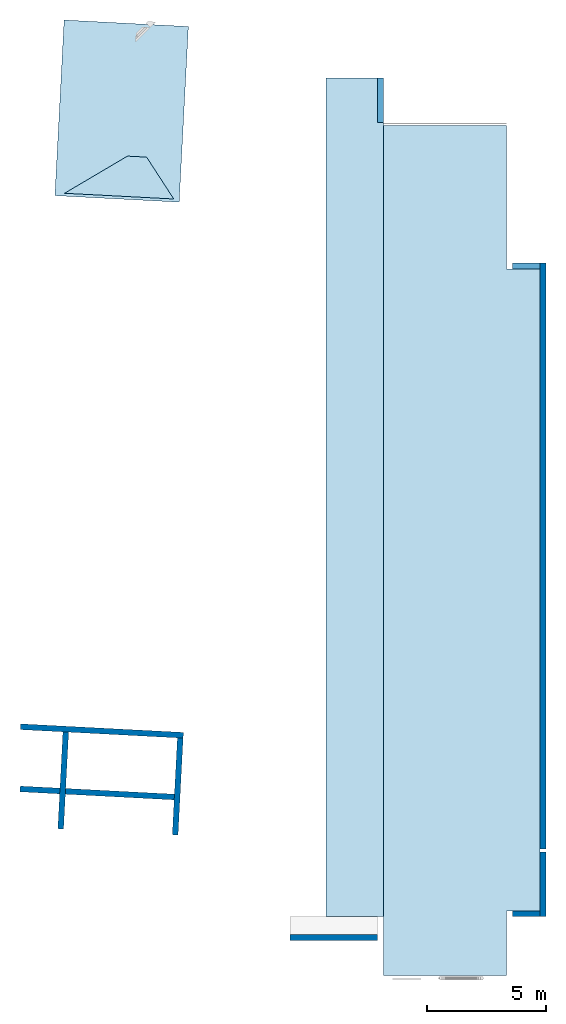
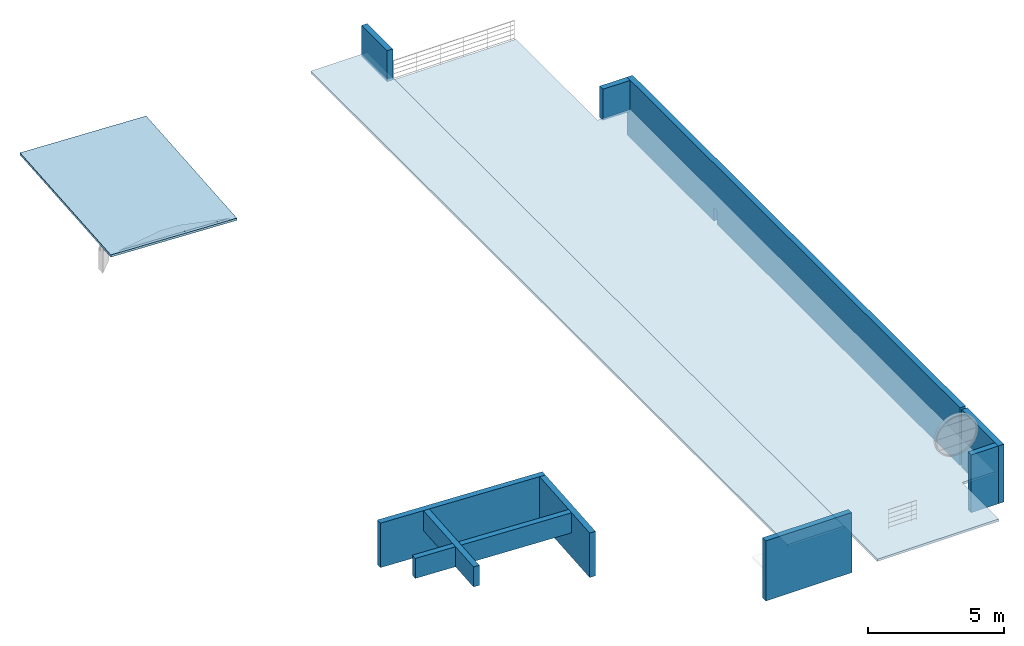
# One storey, part 2 of 4: 10 walls, 4 slabs, 1 opening, 3 elements without a shape of their own.
"""IFC2X3 building model written with IfcOpenShell, lengths in millimetres."""

import ifcopenshell
import ifcopenshell.guid

model = None  # the IFC model being written
_history = None  # IfcOwnerHistory: only IFC2X3 demands one
_inside = {}  # id of a spatial element -> (the spatial element, [elements in it])
_under = {}  # id of a project, library or spatial element -> (it, [spatial elements below it])
_declared = {}  # id of a project -> (the project, [libraries it declares])
_typed = {}  # id of a type object -> (the type object, [elements of that type])
_made_of = {}  # id of a material, layer set ... -> (it, [elements and type objects made of it])


def new_model(schema):
    """Start an empty IFC model of exactly this schema.

    Asked for "IFC4X3", IfcOpenShell would pick the latest addendum, in which some entities
    have other attributes; the version numbers below select the first issue.
    IFC2X3 requires an IfcOwnerHistory on every rooted entity: one is made here for all.
    """
    global model, _history
    if schema == "IFC4X3":
        model = ifcopenshell.file(schema_version=(4, 3, 0, 0))
    else:
        model = ifcopenshell.file(schema=schema)
    _inside.clear()
    _under.clear()
    _declared.clear()
    _typed.clear()
    _made_of.clear()
    _history = None
    if model.schema == "IFC2X3":
        org = make("IfcOrganization", Name="unknown")
        user = make(
            "IfcPersonAndOrganization",
            ThePerson=make("IfcPerson", FamilyName="unknown"),
            TheOrganization=org,
        )
        app = make(
            "IfcApplication",
            ApplicationDeveloper=org,
            Version="unknown",
            ApplicationFullName="unknown",
            ApplicationIdentifier="unknown",
        )
        _history = make(
            "IfcOwnerHistory",
            OwningUser=user,
            OwningApplication=app,
            ChangeAction="ADDED",
            CreationDate=0,
        )
    return model


def make(cls, **values):
    """One entity of the class cls with the attributes given. An attribute that is None is left unset."""
    return model.create_entity(
        cls, **{name: value for name, value in values.items() if value is not None}
    )


def entity(cls, *values):
    """Any entity or typed value of the class cls, its attributes in the order of the schema. None: left unset."""
    e = model.create_entity(cls)
    for i, value in enumerate(values):
        if value is not None:
            e[i] = value
    return e


def rooted(cls, **values):
    """An entity with a GlobalId (a new one), such as an element, a storey or a relation."""
    return make(cls, GlobalId=ifcopenshell.guid.new(), OwnerHistory=_history, **values)


def si_unit(unit_type, name, prefix=None):
    """IfcSIUnit, for example si_unit("LENGTHUNIT", "METRE", prefix="MILLI")."""
    return make("IfcSIUnit", UnitType=unit_type, Prefix=prefix, Name=name)


def converted_unit(unit_type, name, factor, base, dimensions=None, offset=None):
    """IfcConversionBasedUnit, such as the inch: factor (a typed value) times the base unit."""
    return make(
        "IfcConversionBasedUnit"
        if offset is None
        else "IfcConversionBasedUnitWithOffset",
        ConversionOffset=offset,
        Dimensions=None
        if dimensions is None
        else entity("IfcDimensionalExponents", *dimensions),
        UnitType=unit_type,
        Name=name,
        ConversionFactor=make(
            "IfcMeasureWithUnit", ValueComponent=factor, UnitComponent=base
        ),
    )


def derived_unit(unit_type, elements):
    """IfcDerivedUnit: a product of units, each with its exponent."""
    return make(
        "IfcDerivedUnit",
        Elements=[
            make("IfcDerivedUnitElement", Unit=unit, Exponent=power)
            for unit, power in elements
        ],
        UnitType=unit_type,
    )


def assignment(units):
    """IfcUnitAssignment: the units of a project."""
    return None if units is None else make("IfcUnitAssignment", Units=units)


def point(xyz):
    """IfcCartesianPoint."""
    return None if xyz is None else make("IfcCartesianPoint", Coordinates=xyz)


def direction(xyz):
    """IfcDirection."""
    return None if xyz is None else make("IfcDirection", DirectionRatios=xyz)


def frame(location, z_axis=None, x_axis=None):
    """IfcAxis2Placement3D, a coordinate frame: its origin and axes. An axis left out is left unset."""
    return make(
        "IfcAxis2Placement3D",
        Location=point(location),
        Axis=direction(z_axis),
        RefDirection=direction(x_axis),
    )


def frame_2d(location, x_axis=None):
    """IfcAxis2Placement2D, a coordinate frame in the plane: its origin and x axis."""
    return make(
        "IfcAxis2Placement2D", Location=point(location), RefDirection=direction(x_axis)
    )


def origin():
    """The frame at (0, 0, 0) with its axes left unset."""
    return frame((0.0, 0.0, 0.0))


def origin_2d_with_axis():
    """The frame at (0, 0) in the plane with the x axis (1, 0) written out."""
    return frame_2d((0.0, 0.0), x_axis=(1.0, 0.0))


def place(relative_to, where):
    """IfcLocalPlacement: puts the frame where relative to a parent placement (None: the world)."""
    return make(
        "IfcLocalPlacement", PlacementRelTo=relative_to, RelativePlacement=where
    )


def context(
    kind, dimensions, precision=None, world=None, true_north=None, identifier=None
):
    """IfcGeometricRepresentationContext, for example the 3D "Model" context."""
    return make(
        "IfcGeometricRepresentationContext",
        ContextIdentifier=identifier,
        ContextType=kind,
        CoordinateSpaceDimension=dimensions,
        Precision=precision,
        WorldCoordinateSystem=world,
        TrueNorth=true_north,
    )


def subcontext(parent, identifier, kind, view, scale=None):
    """IfcGeometricRepresentationSubContext, for example "Body" below "Model"."""
    return make(
        "IfcGeometricRepresentationSubContext",
        ContextIdentifier=identifier,
        ContextType=kind,
        ParentContext=parent,
        TargetScale=scale,
        TargetView=view,
    )


def project(units=None, contexts=None):
    """IfcProject with its units and contexts."""
    return rooted(
        "IfcProject",
        Name="project",
        RepresentationContexts=contexts,
        UnitsInContext=assignment(units),
    )


def spatial(cls, under=None, at=None, **own):
    """A site, building, storey or space (cls), placed at a placement, below another one or the project."""
    s = rooted(cls, ObjectPlacement=at, **own)
    if under is not None:
        _under.setdefault(under.id(), (under, []))[1].append(s)
    return s


def polyline(points):
    """IfcPolyline through the points."""
    return make("IfcPolyline", Points=[point(p) for p in points])


def profile(cls, at=None, kind="AREA", **sizes):
    """A parametric profile (cls). Its sizes go by their IFC names, for example OverallWidth=200.0."""
    return make(cls, ProfileType=kind, Position=at, **sizes)


def rectangle(**sizes):
    """IfcRectangleProfileDef."""
    return profile("IfcRectangleProfileDef", **sizes)


def outline(outer, holes=None, kind="AREA"):
    """IfcArbitraryClosedProfileDef: a profile drawn as a closed curve; with holes, ...WithVoids."""
    if holes is None:
        return make("IfcArbitraryClosedProfileDef", ProfileType=kind, OuterCurve=outer)
    return make(
        "IfcArbitraryProfileDefWithVoids",
        ProfileType=kind,
        OuterCurve=outer,
        InnerCurves=holes,
    )


def extrude(swept, where, along, depth):
    """IfcExtrudedAreaSolid: the profile swept, set in the frame where, extruded along a direction by depth."""
    return make(
        "IfcExtrudedAreaSolid",
        SweptArea=swept,
        Position=where,
        ExtrudedDirection=direction(along),
        Depth=depth,
    )


def clip(a, b, op="DIFFERENCE"):
    """IfcBooleanClippingResult: the solid a cut by the half space b."""
    return make(
        "IfcBooleanClippingResult", Operator=op, FirstOperand=a, SecondOperand=b
    )


def bounded_halfspace(plane, agree, where, boundary):
    """IfcPolygonalBoundedHalfSpace: a half space limited to a polygon's prism."""
    return make(
        "IfcPolygonalBoundedHalfSpace",
        BaseSurface=make("IfcPlane", Position=plane),
        AgreementFlag=agree,
        Position=where,
        PolygonalBoundary=boundary,
    )


def shape(context_of_items, identifier, shape_type, items):
    """IfcShapeRepresentation: the items that make up one representation, for example the "Body"."""
    return make(
        "IfcShapeRepresentation",
        ContextOfItems=context_of_items,
        RepresentationIdentifier=identifier,
        RepresentationType=shape_type,
        Items=items,
    )


def material(Name=None, Category=None):
    """IfcMaterial."""
    return make("IfcMaterial", Name=Name, Category=Category)


def layer(
    of_material, thickness, ventilated=None, Name=None, Category=None, Priority=None
):
    """IfcMaterialLayer: one layer of a wall or slab, of a material (None: an air gap)."""
    return make(
        "IfcMaterialLayer",
        Material=of_material,
        LayerThickness=thickness,
        IsVentilated=ventilated,
        Name=Name,
        Category=Category,
        Priority=Priority,
    )


def layer_set(layers, Name=None):
    """IfcMaterialLayerSet."""
    return make("IfcMaterialLayerSet", MaterialLayers=layers, LayerSetName=Name)


def layer_usage(for_layer_set, set_direction, sense, offset, extent=None):
    """IfcMaterialLayerSetUsage: how a layer set lies in its element."""
    return make(
        "IfcMaterialLayerSetUsage",
        ForLayerSet=for_layer_set,
        LayerSetDirection=set_direction,
        DirectionSense=sense,
        OffsetFromReferenceLine=offset,
        ReferenceExtent=extent,
    )


def made_of(thing, what):
    """Note that an element or type object is made of a material, layer set ...; save() writes the relation."""
    if what is not None:
        _made_of.setdefault(what.id(), (what, []))[1].append(thing)
    return thing


def type_object(cls, material=None, **own):
    """A type object (cls), such as IfcWallType, which elements share."""
    return made_of(rooted(cls, **own), material)


def element(
    cls,
    number,
    at=None,
    inside=None,
    cuts=None,
    type_object=None,
    material=None,
    context=None,
    identifier="Body",
    shape_type=None,
    held_by="IfcProductDefinitionShape",
    body=None,
    shapes=None,
    **own,
):
    """One element of the class cls, such as IfcWall. Its Tag is "e" and its number.

    at: its placement. inside: the storey or other place that contains it. cuts: it is an
    opening in that element (IfcRelVoidsElement). A single representation is given by context,
    identifier, shape_type and body (its items); several are given by shapes. held_by: the class
    of the entity that holds the representations. save() writes the other relations.
    """
    e = rooted(cls, Tag="e%d" % number, ObjectPlacement=at, **own)
    if body is not None:
        shapes = [shape(context, identifier, shape_type, body)]
    if shapes is not None:
        e.Representation = make(held_by, Representations=shapes)
    if inside is not None:
        _inside.setdefault(inside.id(), (inside, []))[1].append(e)
    if cuts is not None:
        rooted(
            "IfcRelVoidsElement", RelatingBuildingElement=cuts, RelatedOpeningElement=e
        )
    if type_object is not None:
        _typed.setdefault(type_object.id(), (type_object, []))[1].append(e)
    return made_of(e, material)


def aggregate(whole, parts):
    """IfcRelAggregates: a whole, such as a stair, and the parts it consists of."""
    return rooted("IfcRelAggregates", RelatingObject=whole, RelatedObjects=parts)


def save(model, path):
    """Write the relations noted so far, then the file.

    IfcRelAggregates (storeys below a building ...), IfcRelContainedInSpatialStructure (elements
    in a storey), IfcRelDefinesByType, IfcRelAssociatesMaterial and IfcRelDeclares: one each for
    every whole, place, type object, material and project.
    """
    for whole, parts in _under.values():
        aggregate(whole, parts)
    for where, things in _inside.values():
        rooted(
            "IfcRelContainedInSpatialStructure",
            RelatedElements=things,
            RelatingStructure=where,
        )
    for kind, things in _typed.values():
        rooted("IfcRelDefinesByType", RelatedObjects=things, RelatingType=kind)
    for what, things in _made_of.values():
        rooted("IfcRelAssociatesMaterial", RelatedObjects=things, RelatingMaterial=what)
    for by, libraries in _declared.values():
        rooted("IfcRelDeclares", RelatingContext=by, RelatedDefinitions=libraries)
    model.write(path)


model = new_model("IFC2X3")

# Units and contexts
model_context = context("Model", 3, precision=0.01, world=origin(), true_north=direction((6.12303176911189e-17, 1.0)))
body_context = subcontext(model_context, "Body", "Model", "MODEL_VIEW")
ifc_project = project(units=[si_unit("LENGTHUNIT", "METRE", prefix="MILLI"), si_unit("AREAUNIT", "SQUARE_METRE"), si_unit("VOLUMEUNIT", "CUBIC_METRE"), converted_unit("PLANEANGLEUNIT", "DEGREE", entity("IfcRatioMeasure", 0.0174532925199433), si_unit("PLANEANGLEUNIT", "RADIAN"), dimensions=[0, 0, 0, 0, 0, 0, 0]), si_unit("MASSUNIT", "GRAM", prefix="KILO"), derived_unit("MASSDENSITYUNIT", [(si_unit("MASSUNIT", "GRAM", prefix="KILO"), 1), (si_unit("LENGTHUNIT", "METRE"), -3)]), si_unit("TIMEUNIT", "SECOND"), si_unit("FREQUENCYUNIT", "HERTZ"), si_unit("THERMODYNAMICTEMPERATUREUNIT", "DEGREE_CELSIUS"), derived_unit("THERMALTRANSMITTANCEUNIT", [(si_unit("MASSUNIT", "GRAM", prefix="KILO"), 1), (si_unit("THERMODYNAMICTEMPERATUREUNIT", "KELVIN"), -1), (si_unit("TIMEUNIT", "SECOND"), -3)]), derived_unit("VOLUMETRICFLOWRATEUNIT", [(si_unit("LENGTHUNIT", "METRE"), 3), (si_unit("TIMEUNIT", "SECOND"), -1)]), si_unit("ELECTRICCURRENTUNIT", "AMPERE"), si_unit("ELECTRICVOLTAGEUNIT", "VOLT"), si_unit("POWERUNIT", "WATT"), si_unit("FORCEUNIT", "NEWTON", prefix="KILO"), si_unit("ILLUMINANCEUNIT", "LUX"), si_unit("LUMINOUSFLUXUNIT", "LUMEN"), si_unit("LUMINOUSINTENSITYUNIT", "CANDELA"), derived_unit("USERDEFINED", [(si_unit("MASSUNIT", "GRAM", prefix="KILO"), -1), (si_unit("LENGTHUNIT", "METRE"), -2), (si_unit("TIMEUNIT", "SECOND"), 3), (si_unit("LUMINOUSFLUXUNIT", "LUMEN"), 1)]), derived_unit("LINEARVELOCITYUNIT", [(si_unit("LENGTHUNIT", "METRE"), 1), (si_unit("TIMEUNIT", "SECOND"), -1)]), si_unit("PRESSUREUNIT", "PASCAL"), derived_unit("USERDEFINED", [(si_unit("LENGTHUNIT", "METRE"), -2), (si_unit("MASSUNIT", "GRAM", prefix="KILO"), 1), (si_unit("TIMEUNIT", "SECOND"), -2)])], contexts=[model_context])

# Site, building, storey
site_placement = place(None, origin())
site = spatial("IfcSite", under=ifc_project, at=site_placement, Name="表面", CompositionType="ELEMENT")
building_placement = place(site_placement, origin())
building = spatial("IfcBuilding", under=site, at=building_placement, CompositionType="ELEMENT")
storey_placement = place(building_placement, frame((0.0, 0.0, 9000.0)))
storey = spatial("IfcBuildingStorey", under=building, at=storey_placement, Name="4F", CompositionType="ELEMENT", Elevation=9000.00000000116)

# Roof, slab
roof_1_placement = place(storey_placement, frame((-14310.2499126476, -29536.868426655, 1200.0)))
roof_1 = element("IfcRoof", 1, at=roof_1_placement, inside=storey, Name="基本屋顶:白屋顶", ObjectType="基本屋顶:白屋顶", ShapeType="NOTDEFINED")
ifc_material_1 = material(Name="白色涂料")
ifc_layer_1 = layer(ifc_material_1, 10.0)
ifc_material_2 = material(Name="默认屋顶")
ifc_layer_2 = layer(ifc_material_2, 80.0)
ifc_layer_3 = layer(ifc_material_1, 10.0)
ifc_layer_set_1 = layer_set([ifc_layer_1, ifc_layer_2, ifc_layer_3], Name="基本屋顶:白屋顶")
slab_1_placement = place(roof_1_placement, origin())
slab_1 = element("IfcSlab", 2, at=slab_1_placement, material=ifc_layer_set_1, Name="基本屋顶:白屋顶", ObjectType="基本屋顶:白屋顶", PredefinedType="ROOF", context=body_context, shape_type="SweptSolid", body=[
    extrude(rectangle(XDim=2399.99999999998, YDim=35100.0, at=origin_2d_with_axis()), frame((1200.0, 17550.0, 0.0)), (0.0, 0.0, 1.0), 99.9999999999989),
])
aggregate(roof_1, [slab_1])

roof_2_placement = place(storey_placement, origin())
roof_2 = element("IfcRoof", 3, at=roof_2_placement, inside=storey, Name="基本屋顶:白屋顶", ObjectType="基本屋顶:白屋顶", ShapeType="NOTDEFINED")
slab_2_placement = place(storey_placement, origin())
slab_2 = element("IfcSlab", 4, at=slab_2_placement, Name="基本屋顶:白屋顶:1", ObjectType="基本屋顶:白屋顶", PredefinedType="ROOF", context=body_context, shape_type="SweptSolid", body=[
    extrude(outline(polyline([(-14319.085209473, 706.666666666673), (-14319.085209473, -4453.33333333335), (-11859.085209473, -4453.33333333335), (21240.914790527, -4453.33333333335), (21240.914790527, 706.666666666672), (15240.914790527, 706.666666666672), (15240.914790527, 2106.66666666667), (8849.9373042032, 2106.66666666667), (-8919.08520947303, 2106.66666666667), (-9159.08520947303, 2106.66666666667), (-11619.085209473, 2106.66666666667), (-11619.085209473, 706.666666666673), (-14319.085209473, 706.666666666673)])), frame((-7456.91657931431, -17677.783217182, 1200.0), z_axis=(0.0, 0.0, -1.0), x_axis=(0.0, 1.0, 0.0)), (0.0, 0.0, -1.0), 99.9999999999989),
])
aggregate(roof_2, [slab_2])

# Slab
ifc_material_3 = material(Name="默认楼板")
ifc_layer_4 = layer(ifc_material_3, 100.0)
ifc_layer_set_2 = layer_set([ifc_layer_4], Name="楼板:常规 - 100mm")
ifc_layer_usage_1 = layer_usage(ifc_layer_set_2, "AXIS3", "POSITIVE", 0.0)
slab_3_placement = place(storey_placement, origin())
element("IfcSlab", 5, at=slab_3_placement, inside=storey, material=ifc_layer_usage_1, Name="楼板:常规 - 100mm", ObjectType="楼板:常规 - 100mm", PredefinedType="FLOOR", context=body_context, shape_type="SweptSolid", body=[
    extrude(rectangle(XDim=7360.0, YDim=5210.00000000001, at=frame_2d((6.82121026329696e-13, 2.27373675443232e-12), x_axis=(1.0, 0.0))), frame((-22864.9981928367, 4170.12233095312, 0.0), z_axis=(0.0, 0.0, -1.0), x_axis=(-0.0523359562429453, -0.998629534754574, 0.0)), (0.0, 0.0, 1.0), 100.0),
])

# Roof, slab
roof_3_placement = place(storey_placement, frame((-25255.2472974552, 490.980328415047, -1091.19200876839)))
roof_3 = element("IfcRoof", 6, at=roof_3_placement, inside=storey, Name="基本屋顶:白屋顶", ObjectType="基本屋顶:白屋顶", ShapeType="NOTDEFINED")
slab_4_placement = place(roof_3_placement, origin())
slab_4 = element("IfcSlab", 7, at=slab_4_placement, material=ifc_layer_set_1, Name="基本屋顶:白屋顶", ObjectType="基本屋顶:白屋顶", PredefinedType="ROOF", context=body_context, shape_type="SweptSolid", body=[
    extrude(outline(polyline([(-2330.21787299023, -870.966038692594), (2241.73980849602, -1078.4710506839), (1105.5718318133, 926.54839731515), (303.774462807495, 962.939148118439), (-2330.21787299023, -870.966038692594)])), frame((2329.41991278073, 963.604006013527, 487.860977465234), z_axis=(0.0261679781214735, 0.499314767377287, 0.866025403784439), x_axis=(0.999657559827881, -0.0130705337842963, -0.0226698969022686)), (-0.0226698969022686, -0.499485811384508, 0.866025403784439), 115.470053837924),
])
aggregate(roof_3, [slab_4])

# Walls
ifc_layer_5 = layer(ifc_material_1, 10.0)
ifc_material_4 = material(Name="默认墙")
ifc_layer_6 = layer(ifc_material_4, 220.0)
ifc_layer_7 = layer(ifc_material_1, 10.0)
ifc_layer_set_3 = layer_set([ifc_layer_5, ifc_layer_6, ifc_layer_7], Name="基本墙:粉刷墙240")
ifc_layer_usage_2 = layer_usage(ifc_layer_set_3, "AXIS2", "NEGATIVE", 120.0)
wall_type = type_object("IfcWallType", Name="基本墙:粉刷墙240", PredefinedType="STANDARD", material=ifc_layer_set_3)
wall_1_placement = place(storey_placement, frame((-5230.24991264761, -2196.868426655, 0.0), z_axis=(0.0, 0.0, 1.0), x_axis=(0.0, -1.0, 0.0)))
element("IfcWallStandardCase", 8, at=wall_1_placement, inside=storey, type_object=wall_type, material=ifc_layer_usage_2, Name="基本墙:粉刷墙240", ObjectType="基本墙:粉刷墙240", context=body_context, shape_type="Clipping", body=[
    clip(extrude(rectangle(XDim=24520.0, YDim=240.0, at=frame_2d((12260.0, 1.77635683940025e-13), x_axis=(1.0, 0.0))), origin(), (0.0, 0.0, 1.0), 2600.0), bounded_halfspace(frame((6390.97748632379, -120.0, 600.0)), True, frame((6390.97748632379, -120.0, 600.0)), polyline([(0.0, 0.0), (240.0, 0.0), (240.0, 240.0), (0.0, 240.0), (0.0, 0.0)]))),
])
ifc_layer_usage_3 = layer_usage(ifc_layer_set_3, "AXIS2", "NEGATIVE", 120.0)
wall_2_placement = place(storey_placement, frame((-12150.2499126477, -30416.868426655, -100.0), z_axis=(0.0, 0.0, 1.0), x_axis=(-1.0, 0.0, 0.0)))
element("IfcWallStandardCase", 9, at=wall_2_placement, inside=storey, type_object=wall_type, material=ifc_layer_usage_3, Name="基本墙:粉刷墙240", ObjectType="基本墙:粉刷墙240", context=body_context, shape_type="SweptSolid", body=[
    extrude(rectangle(XDim=3659.99999999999, YDim=239.999999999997, at=frame_2d((1830.0, -3.97903932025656e-13), x_axis=(-1.0, 0.0))), origin(), (0.0, 0.0, 1.0), 2700.0),
])
ifc_layer_usage_4 = layer_usage(ifc_layer_set_3, "AXIS2", "NEGATIVE", 120.0)
wall_3_placement = place(storey_placement, frame((-5230.24991264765, -26716.868426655, 0.0), z_axis=(0.0, 0.0, 1.0), x_axis=(0.0, -1.0, 0.0)))
element("IfcWallStandardCase", 10, at=wall_3_placement, inside=storey, type_object=wall_type, material=ifc_layer_usage_4, Name="基本墙:粉刷墙240", ObjectType="基本墙:粉刷墙240", context=body_context, shape_type="SweptSolid", body=[
    extrude(rectangle(XDim=2700.0, YDim=240.0, at=frame_2d((1470.0, 1.84741111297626e-13), x_axis=(-1.0, 0.0))), origin(), (0.0, 0.0, 1.0), 2600.0),
])
ifc_layer_usage_5 = layer_usage(ifc_layer_set_3, "AXIS2", "NEGATIVE", 120.0)
wall_4_placement = place(storey_placement, frame((-5350.24991264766, -29416.868426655, 0.0), z_axis=(0.0, 0.0, 1.0), x_axis=(-1.0, 0.0, 0.0)))
element("IfcWallStandardCase", 11, at=wall_4_placement, inside=storey, type_object=wall_type, material=ifc_layer_usage_5, Name="基本墙:粉刷墙240", ObjectType="基本墙:粉刷墙240", context=body_context, shape_type="SweptSolid", body=[
    extrude(rectangle(XDim=1160.0, YDim=239.999999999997, at=frame_2d((579.999999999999, -3.69482222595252e-13), x_axis=(-1.0, 0.0))), origin(), (0.0, 0.0, 1.0), 2600.0),
])
ifc_layer_usage_6 = layer_usage(ifc_layer_set_3, "AXIS2", "NEGATIVE", 120.0)
wall_5_placement = place(storey_placement, frame((-6510.24991264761, -2316.86842665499, 1200.0)))
element("IfcWallStandardCase", 12, at=wall_5_placement, inside=storey, type_object=wall_type, material=ifc_layer_usage_6, Name="基本墙:粉刷墙240", ObjectType="基本墙:粉刷墙240", context=body_context, shape_type="SweptSolid", body=[
    extrude(rectangle(XDim=1160.0, YDim=240.0, at=frame_2d((580.0, -1.20792265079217e-13), x_axis=(-1.0, 0.0))), origin(), (0.0, 0.0, 1.0), 1400.0),
])
ifc_layer_usage_7 = layer_usage(ifc_layer_set_3, "AXIS2", "NEGATIVE", 120.0)
wall_6_placement = place(storey_placement, frame((-12030.2499126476, 5563.13157334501, 1200.0), z_axis=(0.0, 0.0, 1.0), x_axis=(0.0, -1.0, 0.0)))
element("IfcWallStandardCase", 13, at=wall_6_placement, inside=storey, type_object=wall_type, material=ifc_layer_usage_7, Name="基本墙:粉刷墙240", ObjectType="基本墙:粉刷墙240", context=body_context, shape_type="SweptSolid", body=[
    extrude(rectangle(XDim=1880.0, YDim=240.000000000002, at=frame_2d((940.0, -7.105427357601e-14), x_axis=(-1.0, 0.0))), origin(), (0.0, 0.0, 1.0), 1400.0),
])
ifc_layer_usage_8 = layer_usage(ifc_layer_set_3, "AXIS2", "NEGATIVE", 120.0)
wall_7_placement = place(storey_placement, frame((-27096.5806492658, -21593.7222082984, 0.0), z_axis=(0.0, 0.0, 1.0), x_axis=(0.998629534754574, -0.0523359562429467, 0.0)))
element("IfcWallStandardCase", 14, at=wall_7_placement, inside=storey, type_object=wall_type, material=ifc_layer_usage_8, Name="基本墙:粉刷墙240", ObjectType="基本墙:粉刷墙240", context=body_context, shape_type="SweptSolid", body=[
    extrude(rectangle(XDim=6820.00000000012, YDim=239.999999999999, at=frame_2d((3410.00000000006, 8.5265128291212e-13), x_axis=(-1.0, 0.0))), origin(), (0.0, 0.0, 1.0), 2000.0),
])
ifc_layer_usage_9 = layer_usage(ifc_layer_set_3, "AXIS2", "NEGATIVE", 120.0)
wall_8_placement = place(storey_placement, frame((-20412.0430811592, -22064.2086592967, 0.0), z_axis=(0.0, 0.0, 1.0), x_axis=(-0.0523359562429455, -0.998629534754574, 0.0)))
element("IfcWallStandardCase", 15, at=wall_8_placement, inside=storey, type_object=wall_type, material=ifc_layer_usage_9, Name="基本墙:粉刷墙240", ObjectType="基本墙:粉刷墙240", context=body_context, shape_type="SweptSolid", body=[
    extrude(rectangle(XDim=4060.00000000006, YDim=239.999999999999, at=frame_2d((2030.00000000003, -1.06581410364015e-12), x_axis=(-1.0, 0.0))), origin(), (0.0, 0.0, 1.0), 2000.0),
])
ifc_layer_usage_10 = layer_usage(ifc_layer_set_3, "AXIS2", "NEGATIVE", 120.0)
wall_9_placement = place(storey_placement, frame((-25415.5443508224, -25867.5579938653, 1100.0), z_axis=(0.0, 0.0, 1.0), x_axis=(0.0523359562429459, 0.998629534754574, 0.0)))
element("IfcWallStandardCase", 16, at=wall_9_placement, inside=storey, type_object=wall_type, material=ifc_layer_usage_10, Name="基本墙:粉刷墙240", ObjectType="基本墙:粉刷墙240", context=body_context, shape_type="SweptSolid", body=[
    extrude(rectangle(XDim=4060.00000000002, YDim=239.999999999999, at=frame_2d((2030.00000000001, -1.22923893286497e-12), x_axis=(-1.0, 0.0))), origin(), (0.0, 0.0, 1.0), 899.999999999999),
])

# Wall, opening
ifc_layer_usage_11 = layer_usage(ifc_layer_set_3, "AXIS2", "NEGATIVE", 120.0)
wall_10_placement = place(storey_placement, frame((-27112.8185913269, -24196.4393134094, 1100.0), z_axis=(0.0, 0.0, 1.0), x_axis=(0.998629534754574, -0.0523359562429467, 0.0)))
wall_10 = element("IfcWallStandardCase", 17, at=wall_10_placement, inside=storey, type_object=wall_type, material=ifc_layer_usage_11, Name="基本墙:粉刷墙240", ObjectType="基本墙:粉刷墙240", context=body_context, shape_type="SweptSolid", body=[
    extrude(rectangle(XDim=6460.00000000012, YDim=239.999999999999, at=frame_2d((3230.00000000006, -1.10134124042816e-12), x_axis=(-1.0, 0.0))), origin(), (0.0, 0.0, 1.0), 899.999999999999),
])
opening_placement = place(storey_placement, frame((-27112.8185913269, -24196.4393134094, 1100.0), z_axis=(0.0, 0.0, 1.0), x_axis=(0.998629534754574, -0.0523359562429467, 0.0)))
element("IfcOpeningElement", 18, at=opening_placement, cuts=wall_10, Name="基本墙:粉刷墙240:1", ObjectType="Opening", context=body_context, shape_type="SweptSolid", body=[
    extrude(rectangle(XDim=899.999999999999, YDim=239.999999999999, at=origin_2d_with_axis()), frame((1902.40777928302, 0.0, 450.0), z_axis=(-1.0, 0.0, 0.0), x_axis=(0.0, 0.0, 1.0)), (0.0, 0.0, 1.0), 240.000000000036),
])

save(model, "model.ifc")
